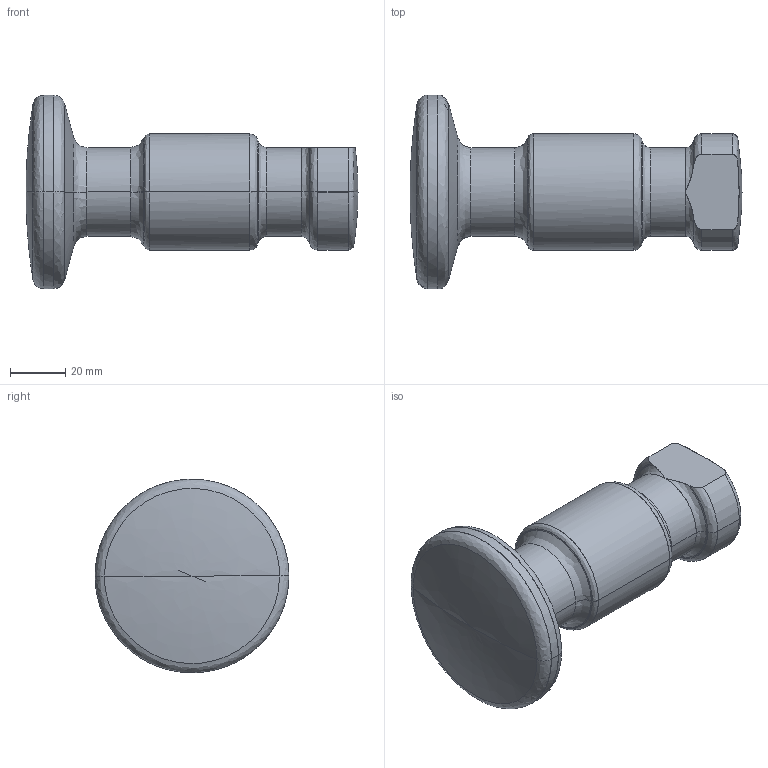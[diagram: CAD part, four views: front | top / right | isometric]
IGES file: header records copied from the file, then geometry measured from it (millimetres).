
Global section: file name: E:\UnigraphicsGraphicData\MISUMI_PRESS-PARTS\IGES\3d_chfl32_03521_r00.igs; native system: NX V5.0; preprocessor: UGS NX IGES V5.0; author: MISUMI; date: 20110105.160216; units: millimetre
Bounding box: 119.9 x 70 x 69.92 mm (x, y, z)
Surface area: 22534.8 mm2 (no closed solid volume)
Topology: 0 solids, 0 shells, 48 faces, 214 edges, 210 vertices
Faces by surface type: bspline 48
